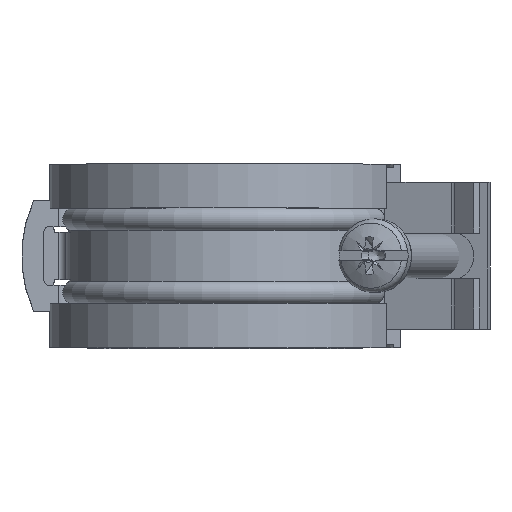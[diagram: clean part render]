
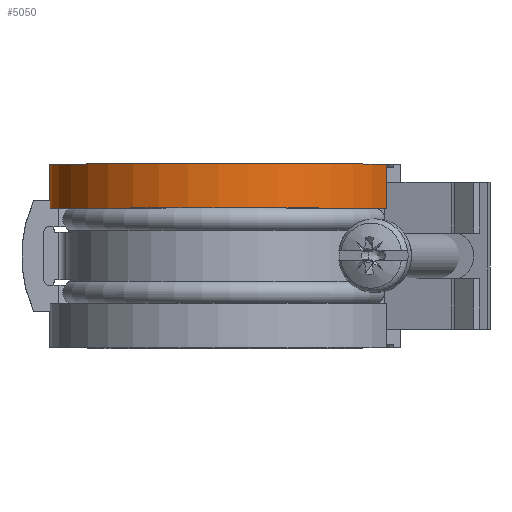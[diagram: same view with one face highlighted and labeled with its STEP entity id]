
A CAD part, top view. The second image highlights one B-rep face of the part: STEP entity #5050.
In plain terms, the highlighted cylindrical face has radius 23.9 mm (diameter 47.8 mm), a partial arc.
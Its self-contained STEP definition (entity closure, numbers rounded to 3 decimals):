
#531=FACE_OUTER_BOUND('',#815,.T.);
#815=EDGE_LOOP('',(#4300,#4301,#4302,#4303));
#1253=LINE('',#9312,#1655);
#1254=LINE('',#9316,#1656);
#1655=VECTOR('',#6818,1000.);
#1656=VECTOR('',#6821,1000.);
#1894=CIRCLE('',#5541,23.9);
#1895=CIRCLE('',#5542,23.9);
#2331=VERTEX_POINT('',#9310);
#2332=VERTEX_POINT('',#9311);
#2333=VERTEX_POINT('',#9313);
#2334=VERTEX_POINT('',#9315);
#3006=EDGE_CURVE('',#2331,#2332,#1253,.T.);
#3007=EDGE_CURVE('',#2333,#2332,#1894,.T.);
#3008=EDGE_CURVE('',#2334,#2333,#1254,.T.);
#3009=EDGE_CURVE('',#2334,#2331,#1895,.T.);
#4300=ORIENTED_EDGE('',*,*,#3006,.T.);
#4301=ORIENTED_EDGE('',*,*,#3007,.F.);
#4302=ORIENTED_EDGE('',*,*,#3008,.F.);
#4303=ORIENTED_EDGE('',*,*,#3009,.T.);
#4516=CYLINDRICAL_SURFACE('',#5540,23.9);
#5050=ADVANCED_FACE('',(#531),#4516,.T.);
#5540=AXIS2_PLACEMENT_3D('',#9309,#6816,#6817);
#5541=AXIS2_PLACEMENT_3D('',#9314,#6819,#6820);
#5542=AXIS2_PLACEMENT_3D('',#9317,#6822,#6823);
#6816=DIRECTION('center_axis',(0.,1.,0.));
#6817=DIRECTION('ref_axis',(-0.982,0.,-0.187));
#6818=DIRECTION('',(0.,1.,0.));
#6819=DIRECTION('center_axis',(0.,1.,0.));
#6820=DIRECTION('ref_axis',(1.,0.,-0.031));
#6821=DIRECTION('',(0.,1.,0.));
#6822=DIRECTION('center_axis',(0.,1.,0.));
#6823=DIRECTION('ref_axis',(1.,0.,-0.031));
#9309=CARTESIAN_POINT('Origin',(0.,0.,
0.));
#9310=CARTESIAN_POINT('',(21.948,6.5,9.459));
#9311=CARTESIAN_POINT('',(21.948,12.5,9.459));
#9312=CARTESIAN_POINT('',(21.948,9.851,9.459));
#9313=CARTESIAN_POINT('',(23.889,12.5,-0.737));
#9314=CARTESIAN_POINT('Origin',(0.,12.5,0.));
#9315=CARTESIAN_POINT('',(23.889,6.5,-0.737));
#9316=CARTESIAN_POINT('',(23.889,9.851,-0.737));
#9317=CARTESIAN_POINT('Origin',(0.,6.5,0.));
